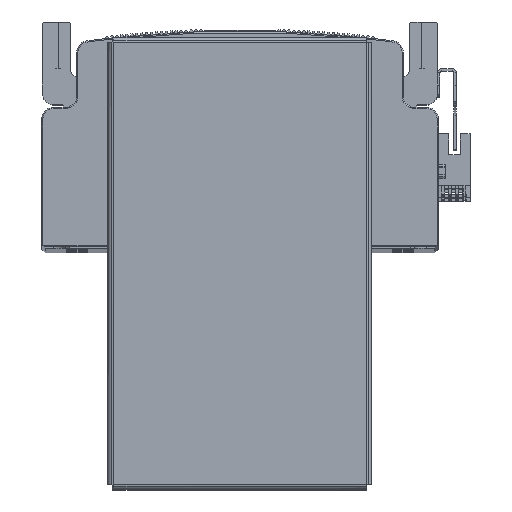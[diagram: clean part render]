
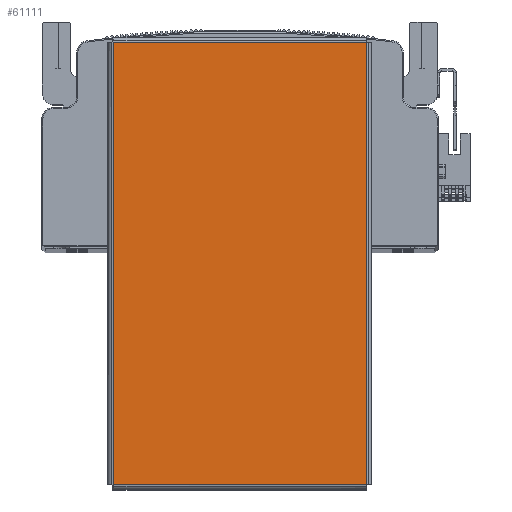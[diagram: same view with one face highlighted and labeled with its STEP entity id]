
A CAD part, top view. The second image highlights one B-rep face of the part: STEP entity #61111.
In plain terms, the highlighted planar face has unit normal (0, 0, 1) as drawn and (0, -1, 0) by its records, which use the part's own axes.
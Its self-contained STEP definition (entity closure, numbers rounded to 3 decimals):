
#5879 = CARTESIAN_POINT ( 'NONE',  ( 94.793, -1.5, 54.363 ) ) ;
#5914 = DIRECTION ( 'NONE',  ( -1., 0., 0. ) ) ;
#5938 = CARTESIAN_POINT ( 'NONE',  ( -94.763, -1.5, 54.393 ) ) ;
#5955 = DIRECTION ( 'NONE',  ( 0., 0., -1. ) ) ;
#5962 = CARTESIAN_POINT ( 'NONE',  ( 94.763, -1.5, -54.393 ) ) ;
#5970 = CARTESIAN_POINT ( 'NONE',  ( -94.793, -1.5, -54.363 ) ) ;
#5971 = DIRECTION ( 'NONE',  ( 1., 0., 0. ) ) ;
#5975 = DIRECTION ( 'NONE',  ( 0., 0., 1. ) ) ;
#7705 = EDGE_LOOP ( 'NONE', ( #67890, #67942, #67889, #67905 ) ) ;
#16288 = VECTOR ( 'NONE', #5955, 1000. ) ;
#16294 = VECTOR ( 'NONE', #5914, 1000. ) ;
#16307 = LINE ( 'NONE', #5962, #16325 ) ;
#16325 = VECTOR ( 'NONE', #5975, 1000. ) ;
#16336 = LINE ( 'NONE', #5938, #16288 ) ;
#16340 = VECTOR ( 'NONE', #5971, 1000. ) ;
#16344 = LINE ( 'NONE', #5970, #16340 ) ;
#16376 = LINE ( 'NONE', #5879, #16294 ) ;
#24599 = CARTESIAN_POINT ( 'NONE',  ( -94.763, -1.5, 54.363 ) ) ;
#24721 = CARTESIAN_POINT ( 'NONE',  ( 94.763, -1.5, -54.363 ) ) ;
#24722 = CARTESIAN_POINT ( 'NONE',  ( -94.763, -1.5, -54.363 ) ) ;
#24749 = CARTESIAN_POINT ( 'NONE',  ( 94.763, -1.5, 54.363 ) ) ;
#51080 = AXIS2_PLACEMENT_3D ( 'NONE', #52569, #52592, #52579 ) ;
#52548 = PLANE ( 'NONE',  #51080 ) ;
#52569 = CARTESIAN_POINT ( 'NONE',  ( 0., -1.5, 0. ) ) ;
#52579 = DIRECTION ( 'NONE',  ( 0., 0., 1. ) ) ;
#52592 = DIRECTION ( 'NONE',  ( 0., 1., 0. ) ) ;
#54272 = EDGE_CURVE ( 'NONE', #66228, #66123, #16376, .T. ) ;
#54278 = EDGE_CURVE ( 'NONE', #66123, #66222, #16336, .T. ) ;
#54293 = EDGE_CURVE ( 'NONE', #66222, #66205, #16344, .T. ) ;
#54301 = EDGE_CURVE ( 'NONE', #66205, #66228, #16307, .T. ) ;
#57666 = FACE_OUTER_BOUND ( 'NONE', #7705, .T. ) ;
#61111 = ADVANCED_FACE ( 'NONE', ( #57666 ), #52548, .F. ) ;
#66123 = VERTEX_POINT ( 'NONE', #24599 ) ;
#66205 = VERTEX_POINT ( 'NONE', #24721 ) ;
#66222 = VERTEX_POINT ( 'NONE', #24722 ) ;
#66228 = VERTEX_POINT ( 'NONE', #24749 ) ;
#67889 = ORIENTED_EDGE ( 'NONE', *, *, #54293, .T. ) ;
#67890 = ORIENTED_EDGE ( 'NONE', *, *, #54272, .T. ) ;
#67905 = ORIENTED_EDGE ( 'NONE', *, *, #54301, .T. ) ;
#67942 = ORIENTED_EDGE ( 'NONE', *, *, #54278, .T. ) ;
